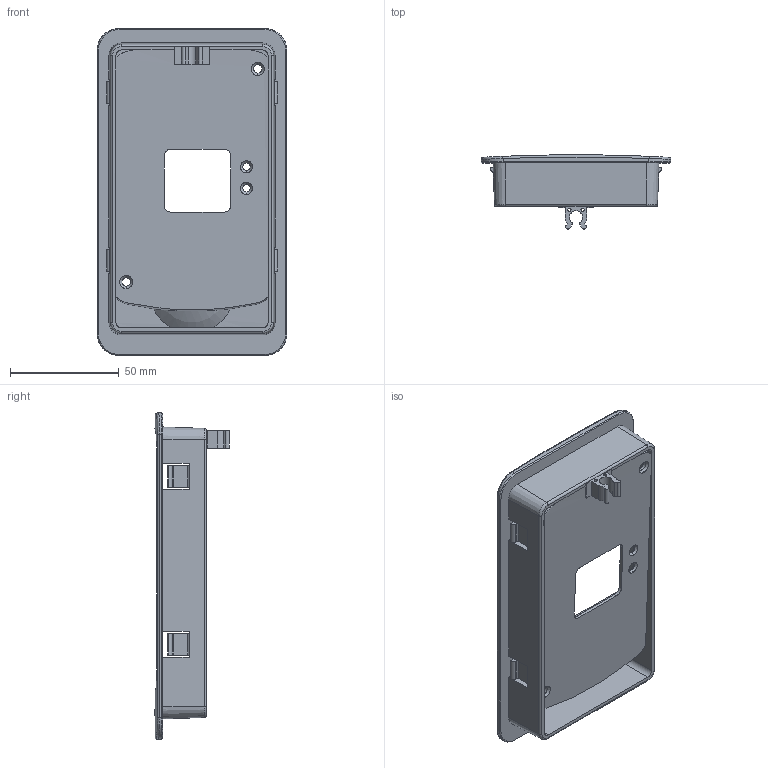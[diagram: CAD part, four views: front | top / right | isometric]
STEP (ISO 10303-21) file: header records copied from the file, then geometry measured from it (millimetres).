
FILE_DESCRIPTION((''),'2;1');
FILE_NAME('IS7_KEYPAD_MOLD_BRK_V4','2021-03-08T',('jonggook'),(''),'CREO PARAMETRIC BY PTC INC, 2018360','CREO PARAMETRIC BY PTC INC, 2018360','');
FILE_SCHEMA(('CONFIG_CONTROL_DESIGN'));
Length unit declared in the file: millimetre
Products named in the file (1): IS7_KEYPAD_MOLD_BRK_V4
Bounding box: 87 x 34.08 x 150 mm (x, y, z)
Volume: 55621 mm3; surface area: 44303.1 mm2
Topology: 1 solids, 1 shells, 198 faces, 543 edges, 346 vertices
Faces by surface type: plane 88, cylinder 58, bspline 22, cone 18, torus 6, extrusion 4, sphere 2
Entity records: 7242 total; most frequent: CARTESIAN_POINT 2349, ORIENTED_EDGE 1086, DIRECTION 882, EDGE_CURVE 543, VERTEX_POINT 346, VECTOR 344, LINE 340, AXIS2_PLACEMENT_3D 269
